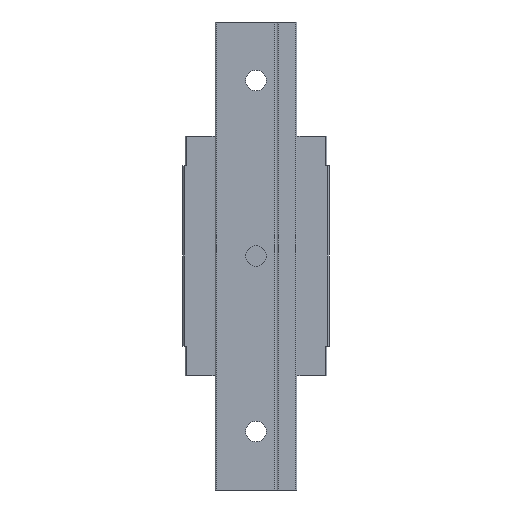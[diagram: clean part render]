
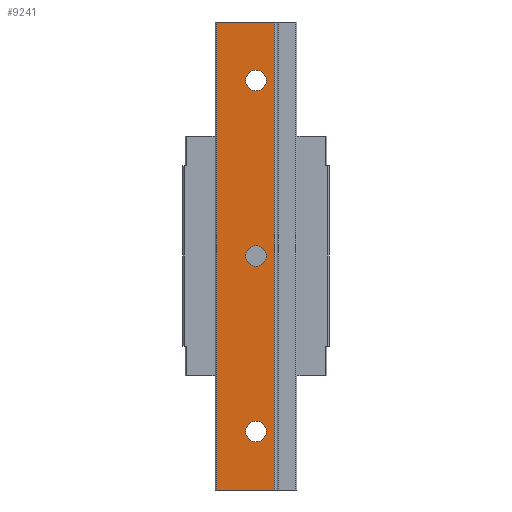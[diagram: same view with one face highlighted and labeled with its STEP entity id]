
A CAD part, front view. The second image highlights one B-rep face of the part: STEP entity #9241.
In plain terms, the highlighted planar face has unit normal (0, -1, 0).
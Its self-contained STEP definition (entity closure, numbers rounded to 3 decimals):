
#107 = CARTESIAN_POINT ( 'NONE',  ( -6.8, 0., -40. ) ) ;
#294 = ORIENTED_EDGE ( 'NONE', *, *, #10279, .F. ) ;
#308 = DIRECTION ( 'NONE',  ( 0., 0., -1. ) ) ;
#337 = EDGE_CURVE ( 'NONE', #7557, #1121, #7969, .T. ) ;
#396 = EDGE_CURVE ( 'NONE', #4679, #1121, #2844, .T. ) ;
#496 = CARTESIAN_POINT ( 'NONE',  ( 0., 0., 31.75 ) ) ;
#687 = LINE ( 'NONE', #803, #5214 ) ;
#709 = DIRECTION ( 'NONE',  ( 0., 0., -1. ) ) ;
#753 = DIRECTION ( 'NONE',  ( 0., 0., -1. ) ) ;
#803 = CARTESIAN_POINT ( 'NONE',  ( 3.5, 0., -40. ) ) ;
#960 = VERTEX_POINT ( 'NONE', #496 ) ;
#1121 = VERTEX_POINT ( 'NONE', #5636 ) ;
#1137 = FACE_BOUND ( 'NONE', #4626, .T. ) ;
#1180 = DIRECTION ( 'NONE',  ( 0., 1., 0. ) ) ;
#1230 = AXIS2_PLACEMENT_3D ( 'NONE', #8626, #4662, #709 ) ;
#1373 = DIRECTION ( 'NONE',  ( 0., 0., -1. ) ) ;
#1649 = DIRECTION ( 'NONE',  ( 0., 0., -1. ) ) ;
#1876 = CARTESIAN_POINT ( 'NONE',  ( 0., 0., -30. ) ) ;
#1899 = ORIENTED_EDGE ( 'NONE', *, *, #396, .F. ) ;
#2001 = CARTESIAN_POINT ( 'NONE',  ( 0., 0., 1.75 ) ) ;
#2010 = EDGE_CURVE ( 'NONE', #7557, #10078, #10126, .T. ) ;
#2028 = VERTEX_POINT ( 'NONE', #4524 ) ;
#2071 = CIRCLE ( 'NONE', #2897, 1.75 ) ;
#2247 = AXIS2_PLACEMENT_3D ( 'NONE', #8990, #1180, #6744 ) ;
#2460 = VERTEX_POINT ( 'NONE', #2001 ) ;
#2466 = AXIS2_PLACEMENT_3D ( 'NONE', #7043, #8706, #753 ) ;
#2538 = DIRECTION ( 'NONE',  ( 0., -1., 0. ) ) ;
#2734 = AXIS2_PLACEMENT_3D ( 'NONE', #1876, #7449, #308 ) ;
#2748 = DIRECTION ( 'NONE',  ( 0., 0., 1. ) ) ;
#2844 = LINE ( 'NONE', #8995, #3460 ) ;
#2897 = AXIS2_PLACEMENT_3D ( 'NONE', #5607, #6346, #10315 ) ;
#3032 = DIRECTION ( 'NONE',  ( -1., 0., 0. ) ) ;
#3069 = EDGE_CURVE ( 'NONE', #7701, #3742, #4721, .T. ) ;
#3098 = ORIENTED_EDGE ( 'NONE', *, *, #3270, .F. ) ;
#3270 = EDGE_CURVE ( 'NONE', #10078, #4679, #687, .T. ) ;
#3284 = CARTESIAN_POINT ( 'NONE',  ( 0., 0., -31.75 ) ) ;
#3448 = CIRCLE ( 'NONE', #9926, 1.75 ) ;
#3460 = VECTOR ( 'NONE', #2748, 1000. ) ;
#3490 = VERTEX_POINT ( 'NONE', #9983 ) ;
#3524 = ORIENTED_EDGE ( 'NONE', *, *, #5889, .F. ) ;
#3742 = VERTEX_POINT ( 'NONE', #6463 ) ;
#4064 = ORIENTED_EDGE ( 'NONE', *, *, #2010, .F. ) ;
#4322 = DIRECTION ( 'NONE',  ( 0., 0., -1. ) ) ;
#4524 = CARTESIAN_POINT ( 'NONE',  ( 0., 0., 28.25 ) ) ;
#4580 = CARTESIAN_POINT ( 'NONE',  ( 3.2, 0., 40. ) ) ;
#4626 = EDGE_LOOP ( 'NONE', ( #8258, #9922 ) ) ;
#4662 = DIRECTION ( 'NONE',  ( 0., -1., 0. ) ) ;
#4679 = VERTEX_POINT ( 'NONE', #107 ) ;
#4721 = CIRCLE ( 'NONE', #7397, 1.75 ) ;
#4963 = CARTESIAN_POINT ( 'NONE',  ( 0., 0., -30. ) ) ;
#5157 = EDGE_CURVE ( 'NONE', #2460, #3490, #3448, .T. ) ;
#5214 = VECTOR ( 'NONE', #3032, 1000. ) ;
#5607 = CARTESIAN_POINT ( 'NONE',  ( 0., 0., 30. ) ) ;
#5636 = CARTESIAN_POINT ( 'NONE',  ( -6.8, 0., 40. ) ) ;
#5889 = EDGE_CURVE ( 'NONE', #960, #2028, #2071, .T. ) ;
#5935 = ORIENTED_EDGE ( 'NONE', *, *, #7013, .F. ) ;
#6338 = EDGE_LOOP ( 'NONE', ( #10150, #1899, #3098, #4064 ) ) ;
#6346 = DIRECTION ( 'NONE',  ( 0., -1., 0. ) ) ;
#6463 = CARTESIAN_POINT ( 'NONE',  ( 0., 0., -28.25 ) ) ;
#6510 = CARTESIAN_POINT ( 'NONE',  ( 3.2, 0., 40. ) ) ;
#6679 = ORIENTED_EDGE ( 'NONE', *, *, #5157, .F. ) ;
#6744 = DIRECTION ( 'NONE',  ( 1., 0., 0. ) ) ;
#6931 = CIRCLE ( 'NONE', #2466, 1.75 ) ;
#7013 = EDGE_CURVE ( 'NONE', #2028, #960, #9877, .T. ) ;
#7043 = CARTESIAN_POINT ( 'NONE',  ( 0., 0., 0. ) ) ;
#7115 = VECTOR ( 'NONE', #9088, 1000. ) ;
#7253 = CARTESIAN_POINT ( 'NONE',  ( 0., 0., 0. ) ) ;
#7397 = AXIS2_PLACEMENT_3D ( 'NONE', #4963, #2538, #4322 ) ;
#7449 = DIRECTION ( 'NONE',  ( 0., -1., 0. ) ) ;
#7557 = VERTEX_POINT ( 'NONE', #6510 ) ;
#7701 = VERTEX_POINT ( 'NONE', #3284 ) ;
#7746 = VECTOR ( 'NONE', #1373, 1000. ) ;
#7969 = LINE ( 'NONE', #9828, #7115 ) ;
#8128 = EDGE_LOOP ( 'NONE', ( #5935, #3524 ) ) ;
#8258 = ORIENTED_EDGE ( 'NONE', *, *, #3069, .F. ) ;
#8271 = FACE_BOUND ( 'NONE', #8128, .T. ) ;
#8324 = PLANE ( 'NONE',  #2247 ) ;
#8360 = CARTESIAN_POINT ( 'NONE',  ( 3.2, 0., -40. ) ) ;
#8626 = CARTESIAN_POINT ( 'NONE',  ( 0., 0., 30. ) ) ;
#8706 = DIRECTION ( 'NONE',  ( 0., -1., 0. ) ) ;
#8891 = FACE_OUTER_BOUND ( 'NONE', #6338, .T. ) ;
#8990 = CARTESIAN_POINT ( 'NONE',  ( -7., 0., 40. ) ) ;
#8995 = CARTESIAN_POINT ( 'NONE',  ( -6.8, 0., 40. ) ) ;
#9047 = EDGE_CURVE ( 'NONE', #3742, #7701, #10058, .T. ) ;
#9088 = DIRECTION ( 'NONE',  ( -1., 0., 0. ) ) ;
#9215 = EDGE_LOOP ( 'NONE', ( #294, #6679 ) ) ;
#9241 = ADVANCED_FACE ( 'NONE', ( #8271, #9825, #1137, #8891 ), #8324, .F. ) ;
#9539 = DIRECTION ( 'NONE',  ( 0., -1., 0. ) ) ;
#9825 = FACE_BOUND ( 'NONE', #9215, .T. ) ;
#9828 = CARTESIAN_POINT ( 'NONE',  ( 3.5, 0., 40. ) ) ;
#9877 = CIRCLE ( 'NONE', #1230, 1.75 ) ;
#9922 = ORIENTED_EDGE ( 'NONE', *, *, #9047, .F. ) ;
#9926 = AXIS2_PLACEMENT_3D ( 'NONE', #7253, #9539, #1649 ) ;
#9983 = CARTESIAN_POINT ( 'NONE',  ( 0., 0., -1.75 ) ) ;
#10058 = CIRCLE ( 'NONE', #2734, 1.75 ) ;
#10078 = VERTEX_POINT ( 'NONE', #8360 ) ;
#10126 = LINE ( 'NONE', #4580, #7746 ) ;
#10150 = ORIENTED_EDGE ( 'NONE', *, *, #337, .T. ) ;
#10279 = EDGE_CURVE ( 'NONE', #3490, #2460, #6931, .T. ) ;
#10315 = DIRECTION ( 'NONE',  ( 0., 0., -1. ) ) ;
